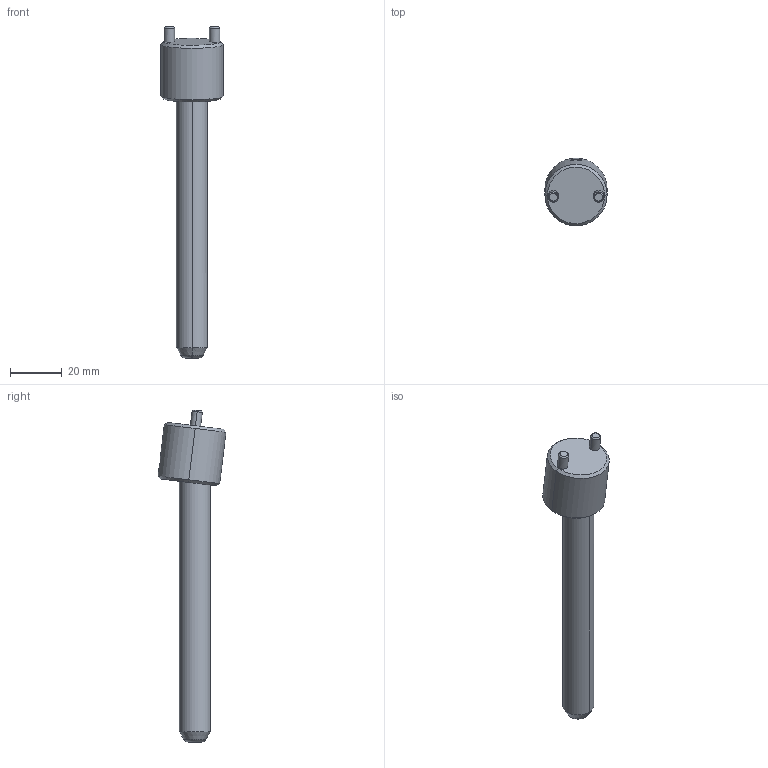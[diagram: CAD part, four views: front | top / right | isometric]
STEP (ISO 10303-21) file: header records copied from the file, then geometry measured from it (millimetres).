
FILE_DESCRIPTION(('CATIA V5 STEP Exchange'),'2;1');
FILE_NAME('C:\Users\Raffaele\Desktop\3D BOLEX\3D FILES CF BOLEX\19-INCLINED ASSEMBLY REF_CI\CI0712100.stp','2019-06-20T14:15:34+00:00',('none'),('none'),'CATIA Version 5 Release 20 GA (IN-10)','CATIA V5 STEP AP203','none');
FILE_SCHEMA(('CONFIG_CONTROL_DESIGN'));
Length unit declared in the file: millimetre
Products named in the file (1): CI0712100
Assembly tree (2 placements, depth 2):
  CI0712100
    #58
    #578
Bounding box: 24 x 26.26 x 128.28 mm (x, y, z)
Volume: 21014.1 mm3; surface area: 7977.8 mm2
Topology: 2 solids, 2 shells, 39 faces, 82 edges, 47 vertices
Faces by surface type: cone 14, cylinder 14, plane 7, torus 4
Entity records: 1458 total; most frequent: CARTESIAN_POINT 599, ORIENTED_EDGE 160, DIRECTION 145, EDGE_CURVE 80, AXIS2_PLACEMENT_3D 72, VERTEX_POINT 47, EDGE_LOOP 43, ADVANCED_FACE 39
